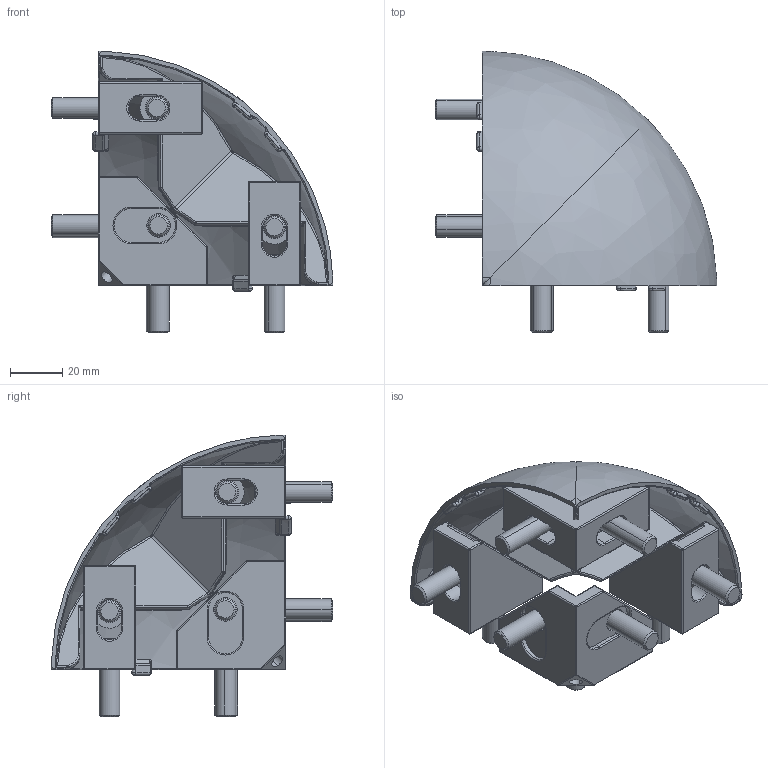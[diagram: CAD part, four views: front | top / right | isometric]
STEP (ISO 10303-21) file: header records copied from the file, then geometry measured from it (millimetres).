
FILE_DESCRIPTION (( 'STEP AP214' ), '1' );
FILE_NAME ('1.3030 Kulma 90R90.STEP', '2024-01-17T07:16:28', ( '' ), ( '' ), 'SwSTEP 2.0', 'SolidWorks 2024', '' );
FILE_SCHEMA (( 'AUTOMOTIVE_DESIGN' ));
Length unit declared in the file: millimetre
Products named in the file (1): 1.3030 Kulma 90R90
Bounding box: 108 x 108 x 108 mm (x, y, z)
Volume: 105032.2 mm3; surface area: 71597 mm2
Topology: 14 solids, 14 shells, 913 faces, 2230 edges, 1307 vertices
Faces by surface type: cylinder 287, plane 287, bspline 173, torus 93, sphere 37, cone 36
Entity records: 58206 total; most frequent: CARTESIAN_POINT 28110, ORIENTED_EDGE 4348, DIRECTION 3892, EDGE_CURVE 2174, AXIS2_PLACEMENT_3D 1511, VERTEX_POINT 1307, EDGE_LOOP 951, UNCERTAINTY_MEASURE_WITH_UNIT 928
